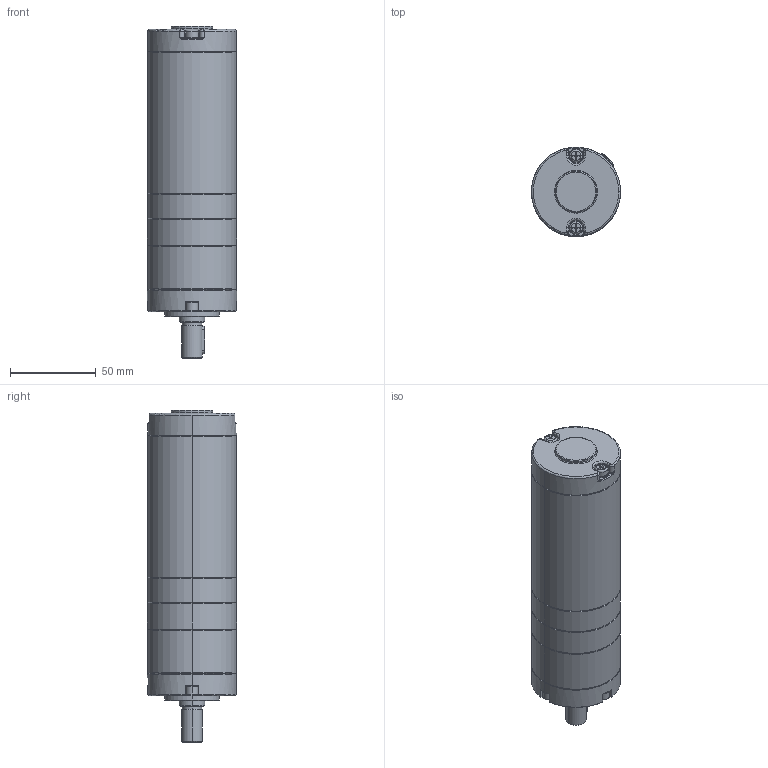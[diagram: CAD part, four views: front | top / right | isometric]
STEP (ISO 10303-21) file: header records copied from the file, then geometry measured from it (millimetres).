
FILE_DESCRIPTION (( 'STEP AP203' ), '1' );
FILE_NAME ('52ZPN衄芃媼撰熬厒.STEP', '2021-07-17T08:16:26', ( '' ), ( '' ), 'SwSTEP 2.0', 'SolidWorks 2021', '' );
FILE_SCHEMA (( 'CONFIG_CONTROL_DESIGN' ));
Length unit declared in the file: millimetre
Products named in the file (1): 52ZPN衄芃媼撰熬厒
Bounding box: 52 x 52 x 193.9 mm (x, y, z)
Volume: 354278.4 mm3; surface area: 34924.4 mm2
Topology: 1 solids, 1 shells, 312 faces, 732 edges, 437 vertices
Faces by surface type: plane 112, cylinder 106, cone 53, torus 30, bspline 8, sphere 3
Entity records: 9582 total; most frequent: CARTESIAN_POINT 2336, DIRECTION 1585, ORIENTED_EDGE 1432, EDGE_CURVE 716, AXIS2_PLACEMENT_3D 605, VERTEX_POINT 436, LINE 375, VECTOR 375
